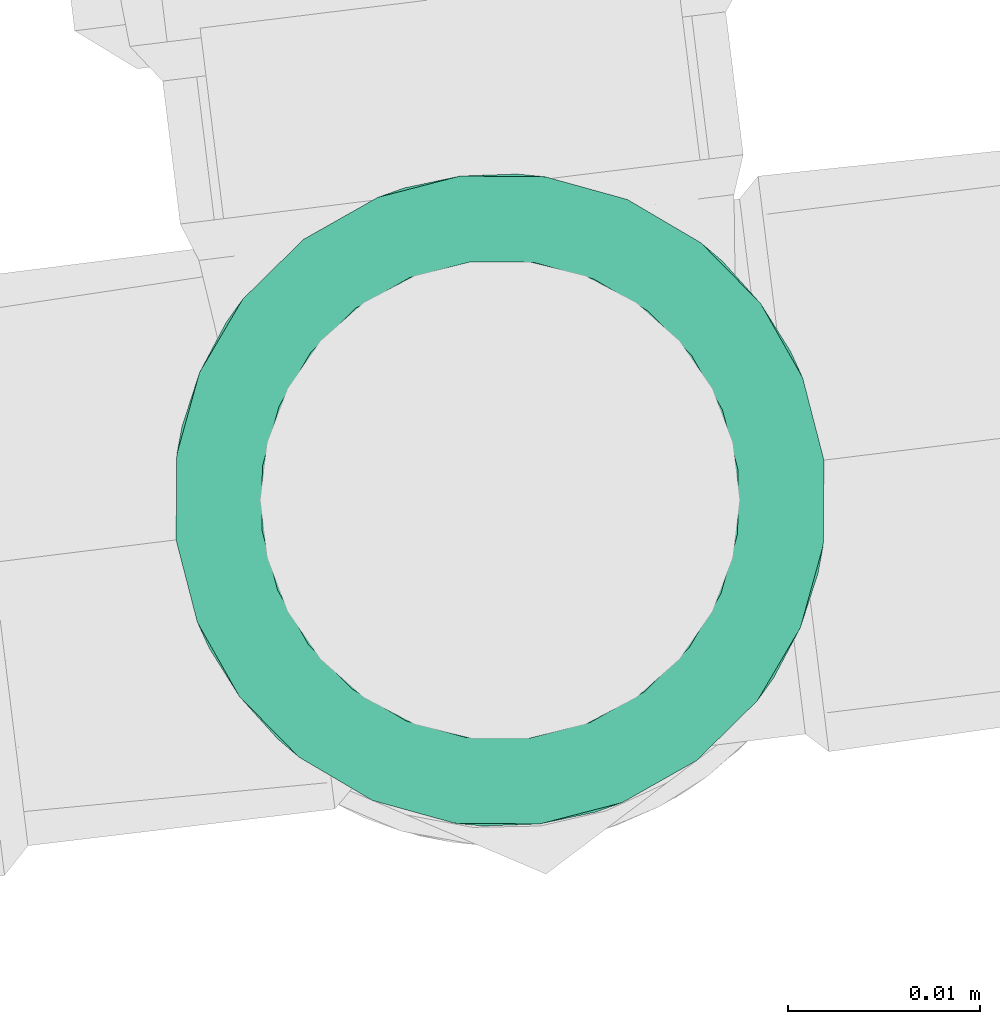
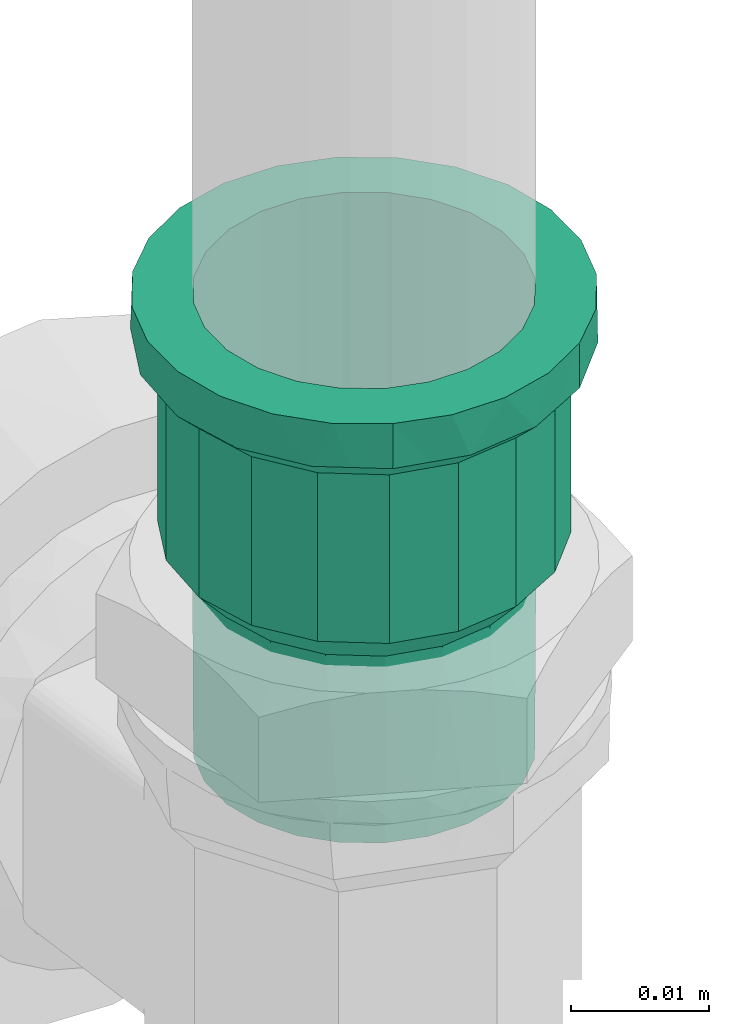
# One storey, part 87 of 97: 1 flow fitting.
"""IFC2X3 building model written with IfcOpenShell, lengths in centimetres."""

import ifcopenshell
import ifcopenshell.guid

model = None  # the IFC model being written
_history = None  # IfcOwnerHistory: only IFC2X3 demands one
_inside = {}  # id of a spatial element -> (the spatial element, [elements in it])
_under = {}  # id of a project, library or spatial element -> (it, [spatial elements below it])
_declared = {}  # id of a project -> (the project, [libraries it declares])
_typed = {}  # id of a type object -> (the type object, [elements of that type])
_made_of = {}  # id of a material, layer set ... -> (it, [elements and type objects made of it])


def new_model(schema):
    """Start an empty IFC model of exactly this schema.

    Asked for "IFC4X3", IfcOpenShell would pick the latest addendum, in which some entities
    have other attributes; the version numbers below select the first issue.
    IFC2X3 requires an IfcOwnerHistory on every rooted entity: one is made here for all.
    """
    global model, _history
    if schema == "IFC4X3":
        model = ifcopenshell.file(schema_version=(4, 3, 0, 0))
    else:
        model = ifcopenshell.file(schema=schema)
    _inside.clear()
    _under.clear()
    _declared.clear()
    _typed.clear()
    _made_of.clear()
    _history = None
    if model.schema == "IFC2X3":
        org = make("IfcOrganization", Name="unknown")
        user = make(
            "IfcPersonAndOrganization",
            ThePerson=make("IfcPerson", FamilyName="unknown"),
            TheOrganization=org,
        )
        app = make(
            "IfcApplication",
            ApplicationDeveloper=org,
            Version="unknown",
            ApplicationFullName="unknown",
            ApplicationIdentifier="unknown",
        )
        _history = make(
            "IfcOwnerHistory",
            OwningUser=user,
            OwningApplication=app,
            ChangeAction="ADDED",
            CreationDate=0,
        )
    return model


def make(cls, **values):
    """One entity of the class cls with the attributes given. An attribute that is None is left unset."""
    return model.create_entity(
        cls, **{name: value for name, value in values.items() if value is not None}
    )


def entity(cls, *values):
    """Any entity or typed value of the class cls, its attributes in the order of the schema. None: left unset."""
    e = model.create_entity(cls)
    for i, value in enumerate(values):
        if value is not None:
            e[i] = value
    return e


def rooted(cls, **values):
    """An entity with a GlobalId (a new one), such as an element, a storey or a relation."""
    return make(cls, GlobalId=ifcopenshell.guid.new(), OwnerHistory=_history, **values)


def si_unit(unit_type, name, prefix=None):
    """IfcSIUnit, for example si_unit("LENGTHUNIT", "METRE", prefix="MILLI")."""
    return make("IfcSIUnit", UnitType=unit_type, Prefix=prefix, Name=name)


def converted_unit(unit_type, name, factor, base, dimensions=None, offset=None):
    """IfcConversionBasedUnit, such as the inch: factor (a typed value) times the base unit."""
    return make(
        "IfcConversionBasedUnit"
        if offset is None
        else "IfcConversionBasedUnitWithOffset",
        ConversionOffset=offset,
        Dimensions=None
        if dimensions is None
        else entity("IfcDimensionalExponents", *dimensions),
        UnitType=unit_type,
        Name=name,
        ConversionFactor=make(
            "IfcMeasureWithUnit", ValueComponent=factor, UnitComponent=base
        ),
    )


def derived_unit(unit_type, elements):
    """IfcDerivedUnit: a product of units, each with its exponent."""
    return make(
        "IfcDerivedUnit",
        Elements=[
            make("IfcDerivedUnitElement", Unit=unit, Exponent=power)
            for unit, power in elements
        ],
        UnitType=unit_type,
    )


def assignment(units):
    """IfcUnitAssignment: the units of a project."""
    return None if units is None else make("IfcUnitAssignment", Units=units)


def point(xyz):
    """IfcCartesianPoint."""
    return None if xyz is None else make("IfcCartesianPoint", Coordinates=xyz)


def direction(xyz):
    """IfcDirection."""
    return None if xyz is None else make("IfcDirection", DirectionRatios=xyz)


def frame(location, z_axis=None, x_axis=None):
    """IfcAxis2Placement3D, a coordinate frame: its origin and axes. An axis left out is left unset."""
    return make(
        "IfcAxis2Placement3D",
        Location=point(location),
        Axis=direction(z_axis),
        RefDirection=direction(x_axis),
    )


def origin():
    """The frame at (0, 0, 0) with its axes left unset."""
    return frame((0.0, 0.0, 0.0))


def place(relative_to, where):
    """IfcLocalPlacement: puts the frame where relative to a parent placement (None: the world)."""
    return make(
        "IfcLocalPlacement", PlacementRelTo=relative_to, RelativePlacement=where
    )


def context(
    kind, dimensions, precision=None, world=None, true_north=None, identifier=None
):
    """IfcGeometricRepresentationContext, for example the 3D "Model" context."""
    return make(
        "IfcGeometricRepresentationContext",
        ContextIdentifier=identifier,
        ContextType=kind,
        CoordinateSpaceDimension=dimensions,
        Precision=precision,
        WorldCoordinateSystem=world,
        TrueNorth=true_north,
    )


def subcontext(parent, identifier, kind, view, scale=None):
    """IfcGeometricRepresentationSubContext, for example "Body" below "Model"."""
    return make(
        "IfcGeometricRepresentationSubContext",
        ContextIdentifier=identifier,
        ContextType=kind,
        ParentContext=parent,
        TargetScale=scale,
        TargetView=view,
    )


def project(units=None, contexts=None):
    """IfcProject with its units and contexts."""
    return rooted(
        "IfcProject",
        Name="project",
        RepresentationContexts=contexts,
        UnitsInContext=assignment(units),
    )


def spatial(cls, under=None, at=None, **own):
    """A site, building, storey or space (cls), placed at a placement, below another one or the project."""
    s = rooted(cls, ObjectPlacement=at, **own)
    if under is not None:
        _under.setdefault(under.id(), (under, []))[1].append(s)
    return s


def faces_of(points, faces, orient=None, outer=None):
    """IfcFace entities. A face is a list of loops; a loop is a list of indices into points, from 0.

    orient and outer hold one flag for each loop. By default every Orientation is true, the
    first loop of a face is its IfcFaceOuterBound and the others are IfcFaceBound.
    """
    made = []
    for i, loops in enumerate(faces):
        bounds = []
        for j, loop in enumerate(loops):
            is_outer = j == 0 if outer is None else outer[i][j]
            bounds.append(
                make(
                    "IfcFaceOuterBound" if is_outer else "IfcFaceBound",
                    Bound=make("IfcPolyLoop", Polygon=[points[k] for k in loop]),
                    Orientation=True if orient is None else orient[i][j],
                )
            )
        made.append(make("IfcFace", Bounds=bounds))
    return made


def faceted_brep(points, faces, orient=None, outer=None, voids=None):
    """IfcFacetedBrep: a solid bounded by flat faces; with voids (closed shells), ...WithVoids."""
    shared = [point(p) for p in points]
    hull = make("IfcClosedShell", CfsFaces=faces_of(shared, faces, orient, outer))
    if voids is None:
        return make("IfcFacetedBrep", Outer=hull)
    return make(
        "IfcFacetedBrepWithVoids",
        Outer=hull,
        Voids=[
            make(cls, CfsFaces=faces_of(shared, fs, o, b)) for cls, fs, o, b in voids
        ],
    )


def shape(context_of_items, identifier, shape_type, items):
    """IfcShapeRepresentation: the items that make up one representation, for example the "Body"."""
    return make(
        "IfcShapeRepresentation",
        ContextOfItems=context_of_items,
        RepresentationIdentifier=identifier,
        RepresentationType=shape_type,
        Items=items,
    )


def source(mapping_origin, context_of_items, identifier, shape_type, items):
    """IfcRepresentationMap: a shape defined once, which mapped items show again and again."""
    return make(
        "IfcRepresentationMap",
        MappingOrigin=mapping_origin,
        MappedRepresentation=shape(context_of_items, identifier, shape_type, items),
    )


def transform(
    local_origin,
    x_axis=None,
    y_axis=None,
    z_axis=None,
    scale=None,
    scale2=None,
    scale3=None,
    uniform=True,
):
    """IfcCartesianTransformationOperator3D, or its non-uniform kind. x_axis, y_axis, z_axis: its Axis1, 2, 3."""
    if uniform:
        return make(
            "IfcCartesianTransformationOperator3D",
            Axis1=direction(x_axis),
            Axis2=direction(y_axis),
            LocalOrigin=point(local_origin),
            Scale=scale,
            Axis3=direction(z_axis),
        )
    return make(
        "IfcCartesianTransformationOperator3DnonUniform",
        Axis1=direction(x_axis),
        Axis2=direction(y_axis),
        LocalOrigin=point(local_origin),
        Scale=scale,
        Axis3=direction(z_axis),
        Scale2=scale2,
        Scale3=scale3,
    )


def mapped(mapping_source, mapping_target):
    """IfcMappedItem: shows the shape of a source again, moved by a transform."""
    return make(
        "IfcMappedItem", MappingSource=mapping_source, MappingTarget=mapping_target
    )


def material(Name=None, Category=None):
    """IfcMaterial."""
    return make("IfcMaterial", Name=Name, Category=Category)


def made_of(thing, what):
    """Note that an element or type object is made of a material, layer set ...; save() writes the relation."""
    if what is not None:
        _made_of.setdefault(what.id(), (what, []))[1].append(thing)
    return thing


def type_object(cls, material=None, **own):
    """A type object (cls), such as IfcWallType, which elements share."""
    return made_of(rooted(cls, **own), material)


def type_shapes(of_type, sources):
    """Give a type object the sources (RepresentationMaps) that its elements show as mapped items."""
    of_type.RepresentationMaps = sources


def element(
    cls,
    number,
    at=None,
    inside=None,
    cuts=None,
    type_object=None,
    material=None,
    context=None,
    identifier="Body",
    shape_type=None,
    held_by="IfcProductDefinitionShape",
    body=None,
    shapes=None,
    **own,
):
    """One element of the class cls, such as IfcWall. Its Tag is "e" and its number.

    at: its placement. inside: the storey or other place that contains it. cuts: it is an
    opening in that element (IfcRelVoidsElement). A single representation is given by context,
    identifier, shape_type and body (its items); several are given by shapes. held_by: the class
    of the entity that holds the representations. save() writes the other relations.
    """
    e = rooted(cls, Tag="e%d" % number, ObjectPlacement=at, **own)
    if body is not None:
        shapes = [shape(context, identifier, shape_type, body)]
    if shapes is not None:
        e.Representation = make(held_by, Representations=shapes)
    if inside is not None:
        _inside.setdefault(inside.id(), (inside, []))[1].append(e)
    if cuts is not None:
        rooted(
            "IfcRelVoidsElement", RelatingBuildingElement=cuts, RelatedOpeningElement=e
        )
    if type_object is not None:
        _typed.setdefault(type_object.id(), (type_object, []))[1].append(e)
    return made_of(e, material)


def aggregate(whole, parts):
    """IfcRelAggregates: a whole, such as a stair, and the parts it consists of."""
    return rooted("IfcRelAggregates", RelatingObject=whole, RelatedObjects=parts)


def save(model, path):
    """Write the relations noted so far, then the file.

    IfcRelAggregates (storeys below a building ...), IfcRelContainedInSpatialStructure (elements
    in a storey), IfcRelDefinesByType, IfcRelAssociatesMaterial and IfcRelDeclares: one each for
    every whole, place, type object, material and project.
    """
    for whole, parts in _under.values():
        aggregate(whole, parts)
    for where, things in _inside.values():
        rooted(
            "IfcRelContainedInSpatialStructure",
            RelatedElements=things,
            RelatingStructure=where,
        )
    for kind, things in _typed.values():
        rooted("IfcRelDefinesByType", RelatedObjects=things, RelatingType=kind)
    for what, things in _made_of.values():
        rooted("IfcRelAssociatesMaterial", RelatedObjects=things, RelatingMaterial=what)
    for by, libraries in _declared.values():
        rooted("IfcRelDeclares", RelatingContext=by, RelatedDefinitions=libraries)
    model.write(path)


model = new_model("IFC2X3")

# Units and contexts
model_context = context("Model", 3, precision=0.001, world=origin(), true_north=direction((6.12303176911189e-17, 1.0)))
body_context = subcontext(model_context, "Body", "Model", "MODEL_VIEW")
ifc_project = project(units=[si_unit("LENGTHUNIT", "METRE", prefix="CENTI"), si_unit("AREAUNIT", "SQUARE_METRE"), si_unit("VOLUMEUNIT", "CUBIC_METRE"), converted_unit("PLANEANGLEUNIT", "DEGREE", entity("IfcRatioMeasure", 0.0174532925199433), si_unit("PLANEANGLEUNIT", "RADIAN"), dimensions=[0, 0, 0, 0, 0, 0, 0]), si_unit("MASSUNIT", "GRAM", prefix="KILO"), derived_unit("MASSDENSITYUNIT", [(si_unit("MASSUNIT", "GRAM", prefix="KILO"), 1), (si_unit("LENGTHUNIT", "METRE"), -3)]), derived_unit("MOMENTOFINERTIAUNIT", [(si_unit("LENGTHUNIT", "METRE"), 4)]), si_unit("TIMEUNIT", "SECOND"), si_unit("FREQUENCYUNIT", "HERTZ"), si_unit("THERMODYNAMICTEMPERATUREUNIT", "DEGREE_CELSIUS"), derived_unit("THERMALTRANSMITTANCEUNIT", [(si_unit("MASSUNIT", "GRAM", prefix="KILO"), 1), (si_unit("THERMODYNAMICTEMPERATUREUNIT", "KELVIN"), -1), (si_unit("TIMEUNIT", "SECOND"), -3)]), derived_unit("VOLUMETRICFLOWRATEUNIT", [(si_unit("LENGTHUNIT", "METRE"), 3), (si_unit("TIMEUNIT", "SECOND"), -1)]), si_unit("ELECTRICCURRENTUNIT", "AMPERE"), si_unit("ELECTRICVOLTAGEUNIT", "VOLT"), si_unit("POWERUNIT", "WATT"), si_unit("FORCEUNIT", "NEWTON", prefix="KILO"), si_unit("ILLUMINANCEUNIT", "LUX"), si_unit("LUMINOUSFLUXUNIT", "LUMEN"), si_unit("LUMINOUSINTENSITYUNIT", "CANDELA"), derived_unit("USERDEFINED", [(si_unit("MASSUNIT", "GRAM", prefix="KILO"), -1), (si_unit("LENGTHUNIT", "METRE"), -2), (si_unit("TIMEUNIT", "SECOND"), 3), (si_unit("LUMINOUSFLUXUNIT", "LUMEN"), 1)]), derived_unit("LINEARVELOCITYUNIT", [(si_unit("LENGTHUNIT", "METRE"), 1), (si_unit("TIMEUNIT", "SECOND"), -1)]), si_unit("PRESSUREUNIT", "PASCAL"), derived_unit("USERDEFINED", [(si_unit("LENGTHUNIT", "METRE"), -2), (si_unit("MASSUNIT", "GRAM", prefix="KILO"), 1), (si_unit("TIMEUNIT", "SECOND"), -2)]), derived_unit("LINEARFORCEUNIT", [(si_unit("MASSUNIT", "GRAM", prefix="KILO"), 1), (si_unit("LENGTHUNIT", "METRE"), 1), (si_unit("TIMEUNIT", "SECOND"), -2), (si_unit("LENGTHUNIT", "METRE"), -1)]), derived_unit("PLANARFORCEUNIT", [(si_unit("MASSUNIT", "GRAM", prefix="KILO"), 1), (si_unit("LENGTHUNIT", "METRE"), 1), (si_unit("TIMEUNIT", "SECOND"), -2), (si_unit("LENGTHUNIT", "METRE"), -2)])], contexts=[model_context])

# Site, building, storey
site_placement = place(None, origin())
site = spatial("IfcSite", under=ifc_project, at=site_placement, Name="Default", CompositionType="ELEMENT")
building_placement = place(site_placement, origin())
building = spatial("IfcBuilding", under=site, at=building_placement, Name="HIDROSSANITÁRIO", CompositionType="ELEMENT")
storey_placement = place(building_placement, frame((0.0, 0.0, -260.0)))
storey = spatial("IfcBuildingStorey", under=building, at=storey_placement, Name="TÉRREO-HID", CompositionType="ELEMENT", Elevation=-260.0)

# Flow fitting
ifc_material = material(Name="PVC Marrom")
pipe_fitting_type = type_object("IfcPipeFittingType", Name="PVC Marrom Soldável_Adaptador Curto com Bolsa e Rosca Aninhado:Adaptador", PredefinedType="NOTDEFINED", material=ifc_material)
shared_shape = source(origin(), body_context, "Body", "Brep", [
    faceted_brep([(0.0, 0.624999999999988, -1.08253175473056), (0.0, 1.20208152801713, -1.20208152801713), (0.0, 0.850000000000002, -1.47224318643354), (0.0, 0.883883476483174, -0.883883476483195), (0.0, 0.323523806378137, -1.20740728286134), (0.0, 1.47224318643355, -0.849999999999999), (0.0, 1.08253175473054, -0.625000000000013), (0.0, 1.20740728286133, -0.323523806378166), (0.0, 1.64207390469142, -0.439992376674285), (0.0, 1.25, 0.0), (0.0, 1.7, 0.0), (0.0, 1.20740728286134, 0.323523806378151), (0.0, 1.64207390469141, 0.439992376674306), (0.0, 1.08253175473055, 0.625), (0.0, 1.47224318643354, 0.850000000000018), (0.0, 0.883883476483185, 0.883883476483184), (0.0, 1.20208152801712, 1.20208152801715), (0.0, 0.625000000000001, 1.08253175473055), (0.0, 0.849999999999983, 1.47224318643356), (0.0, 0.323523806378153, 1.20740728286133), (0.0, 0.439992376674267, 1.64207390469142), (0.0, 0.0, 1.25), (0.0, 0.0, 1.7), (0.0, -0.323523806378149, 1.20740728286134), (0.0, -0.439992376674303, 1.64207390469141), (0.0, -0.624999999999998, 1.08253175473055), (0.0, -0.850000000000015, 1.47224318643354), (0.0, -0.883883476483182, 0.883883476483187), (0.0, -1.20208152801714, 1.20208152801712), (0.0, -1.08253175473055, 0.625000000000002), (0.0, -1.47224318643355, 0.849999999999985), (0.0, -1.64207390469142, 0.439992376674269), (0.0, -1.20740728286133, 0.323523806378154), (0.0, -1.7, 0.0), (0.0, -1.25, 0.0), (0.0, -1.64207390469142, -0.43999237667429), (0.0, -1.20740728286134, -0.323523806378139), (0.0, -1.47224318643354, -0.850000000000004), (0.0, -1.08253175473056, -0.624999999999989), (0.0, -1.20208152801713, -1.20208152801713), (0.0, -0.883883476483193, -0.883883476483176), (0.0, -0.849999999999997, -1.47224318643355), (0.0, -0.625000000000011, -1.08253175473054), (0.0, -0.439992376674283, -1.64207390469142), (0.0, -0.323523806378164, -1.20740728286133), (0.0, 0.0, -1.7), (0.0, 0.0, -1.25), (0.0, 0.439992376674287, -1.64207390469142), (0.399999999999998, -1.64873062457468, 0.290739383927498), (0.399999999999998, -1.59746124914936, 0.581478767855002), (0.399999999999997, -1.30221463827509, 1.09281152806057), (0.399999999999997, -1.07604576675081, 1.28256289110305), (0.399999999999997, -1.44983794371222, 0.837145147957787), (0.399999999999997, -0.295015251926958, 1.67420608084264), (0.399999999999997, -0.57244607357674, 1.57326016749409), (0.399999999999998, -1.7, 0.0), (0.399999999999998, -1.659968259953, 0.227012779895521), (0.399999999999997, -0.849876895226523, 1.47231425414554), (0.399999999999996, 0.572840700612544, 1.57311652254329), (0.399999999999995, 0.850246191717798, 1.47210102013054), (0.399999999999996, 0.295435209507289, 1.67413202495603), (0.399999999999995, 1.07636745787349, 1.28229292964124), (0.399999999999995, 1.30248872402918, 1.09248483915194), (0.399999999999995, 1.5976070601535, 0.581078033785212), (0.399999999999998, 1.7, 0.0), (0.399999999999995, 1.45004789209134, 0.836781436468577), (0.399999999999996, 0.000209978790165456, 1.67416905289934), (0.400000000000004, 1.59760706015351, -0.581078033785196), (0.400000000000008, 1.30248872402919, -1.09248483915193), (0.400000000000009, 1.0763674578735, -1.28229292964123), (0.400000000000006, 1.45004789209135, -0.836781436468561), (0.400000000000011, 0.295435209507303, -1.67413202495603), (0.40000000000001, 0.572840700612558, -1.57311652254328), (0.40000000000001, 0.850246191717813, -1.47210102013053), (0.4, -1.64873062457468, -0.290739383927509), (0.400000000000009, -0.572446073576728, -1.57326016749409), (0.400000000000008, -0.849876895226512, -1.47231425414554), (0.40000000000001, -0.295015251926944, -1.67420608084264), (0.400000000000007, -1.0760457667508, -1.28256289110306), (0.400000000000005, -1.30221463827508, -1.09281152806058), (0.400000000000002, -1.59746124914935, -0.581478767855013), (0.400000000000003, -1.44983794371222, -0.837145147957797), (0.40000000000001, 0.000209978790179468, -1.67416905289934), (0.399999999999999, -1.65996825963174, -0.227012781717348), (2.085, -1.41422304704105, 0.514779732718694), (0.590000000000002, -1.41422304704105, 0.514779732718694), (0.590000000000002, -1.45961152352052, 0.257389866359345), (0.590000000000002, -1.505, 0.0), (2.085, -1.505, 0.0), (2.085, -1.45961152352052, 0.257389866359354), (2.085, -1.45359735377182, 0.291495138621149), (2.08499999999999, -0.752391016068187, 1.30343114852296), (0.590000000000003, -0.752391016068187, 1.30343114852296), (0.590000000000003, -0.952616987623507, 1.13544538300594), (0.590000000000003, -1.15284295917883, 0.967459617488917), (2.08499999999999, -1.15284295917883, 0.967459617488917), (2.08499999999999, -0.952616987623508, 1.13544538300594), (0.590000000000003, -1.28353300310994, 0.741119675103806), (2.085, -1.28353300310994, 0.741119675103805), (0.590000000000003, -0.506783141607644, 1.39279797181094), (2.08499999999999, -0.506783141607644, 1.39279797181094), (2.08499999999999, -0.261175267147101, 1.48216479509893), (0.590000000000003, -0.261175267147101, 1.48216479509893), (0.590000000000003, 0.000185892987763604, 1.48213201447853), (2.08499999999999, 0.000185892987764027, 1.48213201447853), (2.08499999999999, 0.261547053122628, 1.48209923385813), (0.590000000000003, 0.261547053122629, 1.48209923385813), (2.08499999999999, 0.75271795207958, 1.3032423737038), (0.590000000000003, 0.752717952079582, 1.3032423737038), (0.590000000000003, 0.507132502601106, 1.39267080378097), (2.08499999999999, 0.507132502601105, 1.39267080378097), (2.08499999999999, 1.15308560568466, 0.967170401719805), (0.590000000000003, 1.15308560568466, 0.967170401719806), (0.590000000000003, 0.952901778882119, 1.1352063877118), (2.08499999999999, 0.952901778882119, 1.1352063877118), (2.085, 1.4143521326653, 0.514424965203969), (0.590000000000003, 1.4143521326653, 0.514424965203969), (0.590000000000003, 1.28371886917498, 0.740797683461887), (2.085, 1.28371886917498, 0.740797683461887), (2.085, 1.505, 0.0), (0.590000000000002, 1.505, 0.0), (2.08500000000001, 1.41435213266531, -0.514424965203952), (0.590000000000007, 1.41435213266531, -0.514424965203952), (0.590000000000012, 0.752717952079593, -1.3032423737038), (0.590000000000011, 0.95290177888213, -1.13520638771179), (0.59000000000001, 1.15308560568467, -0.967170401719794), (2.08500000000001, 1.15308560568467, -0.967170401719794), (2.08500000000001, 0.95290177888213, -1.13520638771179), (2.08500000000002, 0.752717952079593, -1.3032423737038), (2.08500000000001, -1.41422304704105, -0.514779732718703), (0.590000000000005, -1.41422304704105, -0.514779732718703), (0.590000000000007, -1.28353300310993, -0.741119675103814), (0.590000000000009, -1.15284295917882, -0.967459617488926), (2.08500000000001, -1.15284295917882, -0.967459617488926), (2.08500000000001, -1.28353300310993, -0.741119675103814), (2.08500000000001, -0.752391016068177, -1.30343114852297), (0.590000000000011, -0.752391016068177, -1.30343114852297), (0.590000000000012, -0.506783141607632, -1.39279797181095), (0.590000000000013, -0.261175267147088, -1.48216479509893), (2.08500000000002, -0.261175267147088, -1.48216479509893), (2.08500000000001, -0.506783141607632, -1.39279797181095), (0.590000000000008, 1.28371886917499, -0.740797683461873), (2.08500000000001, 1.28371886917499, -0.740797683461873), (0.590000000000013, 0.507132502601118, -1.39267080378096), (2.08500000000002, 0.507132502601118, -1.39267080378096), (2.08500000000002, 0.261547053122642, -1.48209923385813), (0.590000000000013, 0.261547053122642, -1.48209923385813), (2.085, -1.45359734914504, -0.291495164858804), (2.085, -1.46677519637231, -0.216765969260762), (0.590000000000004, -1.45961152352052, -0.257389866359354), (0.59000000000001, -0.952616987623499, -1.13544538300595), (2.08500000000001, -0.952616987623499, -1.13544538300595), (0.590000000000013, 0.000185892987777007, -1.48213201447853), (2.08500000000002, 0.000185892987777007, -1.48213201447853), (4.03, 0.323523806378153, -1.20740728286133), (4.03, 0.625000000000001, -1.08253175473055), (4.03, 0.883883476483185, -0.883883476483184), (4.03, 1.08253175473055, -0.624999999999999), (4.03, 1.20740728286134, -0.323523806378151), (4.03, 1.25, 0.0), (4.03, 1.20740728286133, 0.323523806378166), (4.03, 1.08253175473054, 0.625000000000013), (4.03, 0.883883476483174, 0.883883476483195), (4.03, 0.624999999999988, 1.08253175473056), (4.03, 0.323523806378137, 1.20740728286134), (4.03, 0.0, 1.25), (4.03, -0.323523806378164, 1.20740728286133), (4.03, -0.625000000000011, 1.08253175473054), (4.03, -0.883883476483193, 0.883883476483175), (4.03, -1.08253175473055, 0.624999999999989), (4.03, -1.20740728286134, 0.323523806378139), (4.03, -1.25, 0.0), (4.03, -1.20740728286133, -0.323523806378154), (4.03, -1.08253175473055, -0.625000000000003), (4.03, -0.883883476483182, -0.883883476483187), (4.03, -0.624999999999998, -1.08253175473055), (4.03, -0.323523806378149, -1.20740728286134), (4.03, 0.0, -1.25), (2.375, -1.25, 0.0), (2.37499999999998, -0.957510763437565, 0.803537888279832), (2.37499999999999, -1.17460385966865, 0.427557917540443), (2.37499999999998, -0.624909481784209, 1.08258401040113), (2.37499999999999, -1.06605731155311, 0.615547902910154), (2.375, -1.21825182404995, 0.180038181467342), (2.37499999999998, -0.216922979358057, 1.23103388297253), (2.37499999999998, -0.420916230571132, 1.15680894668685), (2.37499999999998, -0.791210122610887, 0.943060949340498), (2.37499999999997, 0.217231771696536, 1.23097943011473), (2.37499999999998, 0.625181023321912, 1.08242722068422), (2.37499999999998, 0.957712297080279, 0.803297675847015), (2.37499999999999, 1.17471107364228, 0.427263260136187), (2.37499999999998, 0.791446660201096, 0.94286244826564), (2.37499999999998, 0.421206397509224, 1.1567033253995), (2.375, 1.25, 0.0), (2.37499999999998, 1.06621168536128, 0.615280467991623), (2.37499999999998, 0.000154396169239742, 1.23100665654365), (2.37500000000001, 0.957712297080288, -0.803297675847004), (2.375, 1.17471107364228, -0.427263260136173), (2.37500000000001, 0.625181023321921, -1.08242722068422), (2.37500000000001, 1.06621168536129, -0.615280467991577), (2.37500000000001, 0.217231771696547, -1.23097943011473), (2.37500000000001, 0.421206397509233, -1.15670332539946), (2.37500000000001, 0.791446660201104, -0.942862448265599), (2.37500000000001, -0.216922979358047, -1.23103388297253), (2.37500000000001, -0.6249094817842, -1.08258401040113), (2.375, -0.957510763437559, -0.803537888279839), (2.375, -1.17460385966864, -0.427557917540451), (2.37500000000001, -0.79121012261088, -0.943060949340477), (2.37500000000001, -0.420916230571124, -1.15680894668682), (2.375, -1.21230192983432, -0.213778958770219), (2.375, -1.0660573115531, -0.615547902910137), (2.37500000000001, 0.00015439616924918, -1.23100665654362), (0.590000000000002, -1.25, 0.0), (2.085, -1.25, 0.0), (2.085, -1.20740728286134, -0.323523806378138), (0.590000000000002, -1.20740728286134, -0.323523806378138), (0.399999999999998, -1.20740728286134, -0.323523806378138), (0.399999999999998, -1.25, 0.0), (2.085, -1.08253175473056, -0.624999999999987), (0.590000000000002, -1.08253175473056, -0.624999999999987), (0.399999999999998, -1.08253175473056, -0.624999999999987), (0.590000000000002, -0.625000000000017, -1.08253175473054), (0.399999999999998, -0.625000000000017, -1.08253175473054), (0.399999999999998, -0.883883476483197, -0.883883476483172), (0.590000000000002, -0.883883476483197, -0.883883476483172), (2.085, -0.883883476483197, -0.883883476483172), (2.085, -0.625000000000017, -1.08253175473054), (0.590000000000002, -0.32352380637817, -1.20740728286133), (0.399999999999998, -0.32352380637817, -1.20740728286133), (2.085, -0.32352380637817, -1.20740728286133), (2.085, 0.0, -1.25), (0.590000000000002, 0.0, -1.25), (0.399999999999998, 0.0, -1.25), (2.085, 0.323523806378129, -1.20740728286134), (0.590000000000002, 0.323523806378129, -1.20740728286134), (0.399999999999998, 0.323523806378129, -1.20740728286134), (2.085, 0.624999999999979, -1.08253175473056), (0.590000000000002, 0.624999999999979, -1.08253175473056), (0.399999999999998, 0.624999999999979, -1.08253175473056), (0.590000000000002, 1.08253175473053, -0.625000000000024), (0.399999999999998, 1.08253175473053, -0.625000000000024), (0.399999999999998, 0.883883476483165, -0.883883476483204), (0.590000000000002, 0.883883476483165, -0.883883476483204), (2.085, 0.883883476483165, -0.883883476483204), (2.085, 1.08253175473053, -0.625000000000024), (0.590000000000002, 1.20740728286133, -0.323523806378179), (0.399999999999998, 1.20740728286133, -0.323523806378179), (2.085, 1.20740728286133, -0.323523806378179), (2.085, 1.25, 0.0), (0.590000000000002, 1.25, 0.0), (0.399999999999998, 1.25, 0.0), (2.085, 1.20740728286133, 0.323523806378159), (0.590000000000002, 1.20740728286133, 0.323523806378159), (0.399999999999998, 1.20740728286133, 0.323523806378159), (2.085, 1.08253175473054, 0.625000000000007), (0.590000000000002, 1.08253175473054, 0.625000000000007), (0.399999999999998, 1.08253175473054, 0.625000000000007), (0.590000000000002, 0.624999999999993, 1.08253175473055), (0.399999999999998, 0.624999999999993, 1.08253175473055), (0.399999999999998, 0.883883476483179, 0.88388347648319), (0.590000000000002, 0.883883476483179, 0.88388347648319), (2.085, 0.883883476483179, 0.88388347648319), (2.085, 0.624999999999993, 1.08253175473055), (0.590000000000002, 0.323523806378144, 1.20740728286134), (0.399999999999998, 0.323523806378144, 1.20740728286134), (2.085, 0.323523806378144, 1.20740728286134), (2.085, 0.0, 1.25), (0.590000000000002, 0.0, 1.25), (0.399999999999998, 0.0, 1.25), (2.085, -0.323523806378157, 1.20740728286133), (0.590000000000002, -0.323523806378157, 1.20740728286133), (0.399999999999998, -0.323523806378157, 1.20740728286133), (2.085, -0.625000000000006, 1.08253175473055), (0.590000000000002, -0.625000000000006, 1.08253175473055), (0.399999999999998, -0.625000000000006, 1.08253175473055), (0.590000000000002, -1.08253175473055, 0.624999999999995), (0.399999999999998, -1.08253175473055, 0.624999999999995), (0.399999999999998, -0.883883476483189, 0.88388347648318), (0.590000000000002, -0.883883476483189, 0.88388347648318), (2.085, -0.883883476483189, 0.88388347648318), (2.085, -1.08253175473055, 0.624999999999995), (0.590000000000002, -1.20740728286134, 0.323523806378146), (0.399999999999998, -1.20740728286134, 0.323523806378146), (2.085, -1.20740728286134, 0.323523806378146)], [[[0, 1, 2]], [[3, 1, 0]], [[4, 0, 2]], [[1, 3, 5]], [[5, 3, 6]], [[5, 6, 7]], [[8, 5, 7]], [[9, 8, 7]], [[10, 8, 9]], [[10, 9, 11]], [[12, 10, 11]], [[12, 11, 13]], [[14, 12, 13]], [[14, 13, 15]], [[15, 16, 14]], [[15, 17, 16]], [[18, 16, 17]], [[19, 18, 17]], [[18, 19, 20]], [[21, 20, 19]], [[22, 20, 21]], [[21, 23, 22]], [[24, 22, 23]], [[25, 24, 23]], [[24, 25, 26]], [[25, 27, 26]], [[27, 28, 26]], [[28, 27, 29]], [[28, 29, 30]], [[30, 29, 31]], [[31, 29, 32]], [[33, 31, 32]], [[32, 34, 33]], [[33, 34, 35]], [[34, 36, 35]], [[37, 35, 36]], [[37, 36, 38]], [[39, 37, 38]], [[40, 39, 38]], [[40, 41, 39]], [[42, 41, 40]], [[43, 41, 42]], [[42, 44, 43]], [[43, 44, 45]], [[46, 45, 44]], [[46, 4, 47]], [[45, 46, 47]], [[2, 47, 4]], [[48, 49, 31]], [[28, 50, 51]], [[50, 30, 49, 52]], [[53, 24, 54]], [[30, 31, 49]], [[33, 55, 56, 48]], [[51, 57, 26]], [[51, 26, 28]], [[30, 50, 28]], [[58, 59, 18]], [[58, 18, 20]], [[26, 57, 54]], [[26, 54, 24]], [[22, 24, 53]], [[33, 48, 31]], [[20, 60, 58]], [[16, 61, 62]], [[12, 63, 64]], [[63, 14, 62, 65]], [[12, 64, 10]], [[18, 61, 16]], [[22, 53, 66, 60]], [[22, 60, 20]], [[14, 16, 62]], [[59, 61, 18]], [[14, 63, 12]], [[8, 64, 67]], [[1, 68, 69]], [[68, 5, 67, 70]], [[71, 47, 72]], [[5, 8, 67]], [[8, 10, 64]], [[2, 72, 47]], [[69, 73, 2]], [[5, 68, 1]], [[74, 33, 35]], [[75, 76, 41]], [[2, 73, 72]], [[75, 41, 43]], [[45, 47, 71]], [[69, 2, 1]], [[43, 77, 75]], [[39, 78, 79]], [[35, 80, 74]], [[80, 37, 79, 81]], [[37, 80, 35]], [[41, 78, 39]], [[45, 71, 82, 77]], [[45, 77, 43]], [[37, 39, 79]], [[76, 78, 41]], [[33, 74, 83, 55]], [[84, 85, 86, 87, 88, 89, 90]], [[91, 92, 93, 94, 95, 96]], [[97, 85, 84, 98, 95, 94]], [[99, 92, 91, 100, 101, 102]], [[103, 102, 101, 104, 105, 106]], [[107, 108, 109, 106, 105, 110]], [[111, 112, 113, 108, 107, 114]], [[115, 116, 117, 112, 111, 118]], [[115, 119, 120, 116]], [[120, 119, 121, 122]], [[123, 124, 125, 126, 127, 128]], [[129, 130, 131, 132, 133, 134]], [[135, 136, 137, 138, 139, 140]], [[141, 122, 121, 142, 126, 125]], [[143, 123, 128, 144, 145, 146]], [[147, 148, 88, 87, 149, 130, 129]], [[133, 132, 150, 136, 135, 151]], [[152, 146, 145, 153, 139, 138]], [[154, 155, 156, 157, 158, 159, 160, 161, 162, 163, 164, 165, 166, 167, 168, 169, 170, 171, 172, 173, 174, 175, 176, 177]], [[178, 171, 170]], [[179, 169, 168]], [[170, 169, 180]], [[168, 167, 181]], [[169, 179, 182, 180]], [[170, 180, 183, 178]], [[166, 184, 185, 181]], [[168, 181, 186, 179]], [[184, 166, 165]], [[181, 167, 166]], [[164, 187, 165]], [[163, 188, 164]], [[189, 162, 161]], [[163, 162, 188]], [[190, 161, 160]], [[162, 189, 191, 188]], [[164, 188, 192, 187]], [[160, 193, 190]], [[161, 190, 194, 189]], [[160, 159, 193]], [[165, 187, 195, 184]], [[193, 159, 158]], [[196, 157, 156]], [[158, 157, 197]], [[156, 155, 198]], [[157, 196, 199, 197]], [[197, 193, 158]], [[154, 200, 201, 198]], [[156, 198, 202, 196]], [[200, 154, 177]], [[198, 155, 154]], [[176, 203, 177]], [[175, 204, 176]], [[205, 174, 173]], [[175, 174, 204]], [[206, 173, 172]], [[174, 205, 207, 204]], [[176, 204, 208, 203]], [[172, 178, 209, 206]], [[173, 206, 210, 205]], [[172, 171, 178]], [[177, 203, 211, 200]], [[212, 213, 214, 215, 216, 36, 34, 217]], [[215, 214, 218, 219, 220, 38, 36, 216]], [[221, 222, 42, 40, 223, 224, 225, 226]], [[225, 224, 223, 40, 38, 220, 219, 218]], [[227, 228, 44, 42, 222, 221, 226, 229]], [[227, 229, 230, 231, 232, 46, 44, 228]], [[231, 230, 233, 234, 235, 4, 46, 232]], [[234, 233, 236, 237, 238, 0, 4, 235]], [[239, 240, 6, 3, 241, 242, 243, 244]], [[243, 242, 241, 3, 0, 238, 237, 236]], [[245, 246, 7, 6, 240, 239, 244, 247]], [[245, 247, 248, 249, 250, 9, 7, 246]], [[249, 248, 251, 252, 253, 11, 9, 250]], [[252, 251, 254, 255, 256, 13, 11, 253]], [[257, 258, 17, 15, 259, 260, 261, 262]], [[261, 260, 259, 15, 13, 256, 255, 254]], [[263, 264, 19, 17, 258, 257, 262, 265]], [[263, 265, 266, 267, 268, 21, 19, 264]], [[267, 266, 269, 270, 271, 23, 21, 268]], [[270, 269, 272, 273, 274, 25, 23, 271]], [[275, 276, 29, 27, 277, 278, 279, 280]], [[279, 278, 277, 27, 25, 274, 273, 272]], [[281, 282, 32, 29, 276, 275, 280, 283]], [[281, 283, 213, 212, 217, 34, 32, 282]], [[120, 122, 67, 64]], [[73, 123, 143, 146, 71, 72]], [[123, 73, 69, 68, 125, 124]], [[70, 67, 122, 141, 125, 68]], [[77, 138, 137, 136, 76, 75]], [[130, 80, 81, 79, 132, 131]], [[149, 87, 55, 83, 74, 80, 130]], [[82, 71, 146, 152, 138, 77]], [[78, 76, 136, 150, 132, 79]], [[49, 48, 56, 55, 87, 86, 85]], [[52, 49, 85, 97, 94, 50]], [[51, 50, 94, 93, 92, 57]], [[92, 99, 102, 53, 54, 57]], [[103, 106, 60, 66, 53, 102]], [[109, 108, 59, 58, 60, 106]], [[116, 120, 64, 63]], [[112, 117, 116, 63, 65, 62]], [[108, 113, 112, 62, 61, 59]], [[233, 230, 229, 226, 225, 218, 214, 213, 283, 280, 279, 272, 269, 266, 265, 262, 261, 254, 251, 248, 247, 244, 243, 236]], [[180, 84, 90, 89, 88, 178, 183]], [[184, 101, 100, 91, 181, 185]], [[96, 95, 179, 186, 181, 91]], [[98, 84, 180, 182, 179, 95]], [[101, 184, 195, 187, 105, 104]], [[190, 115, 118, 111, 189, 194]], [[105, 187, 192, 188, 107, 110]], [[190, 193, 119, 115]], [[114, 107, 188, 191, 189, 111]], [[193, 197, 121, 119]], [[128, 198, 201, 200, 145, 144]], [[198, 128, 127, 126, 196, 202]], [[142, 121, 197, 199, 196, 126]], [[139, 203, 208, 204, 135, 140]], [[206, 129, 134, 133, 205, 210]], [[209, 178, 88, 148, 147, 129, 206]], [[153, 145, 200, 211, 203, 139]], [[151, 135, 204, 207, 205, 133]]]),
])
type_shapes(pipe_fitting_type, [shared_shape])
flow_fitting_placement = place(storey_placement, frame((-1655.06244479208, 3152.17622329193, 185.475), z_axis=(-0.122152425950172, 0.992511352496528, 0.0), x_axis=(0.0, 0.0, -1.0)))
element("IfcFlowFitting", 1, at=flow_fitting_placement, inside=storey, type_object=pipe_fitting_type, material=ifc_material, Name="PVC Marrom Soldável_Adaptador Curto com Bolsa e Rosca Aninhado:Adaptador", ObjectType="PVC Marrom Soldável_Adaptador Curto com Bolsa e Rosca Aninhado:Adaptador", context=body_context, shape_type="MappedRepresentation", body=[
    mapped(shared_shape, transform((0.0, 0.0, 0.0), scale=1.0)),
])

save(model, "model.ifc")
